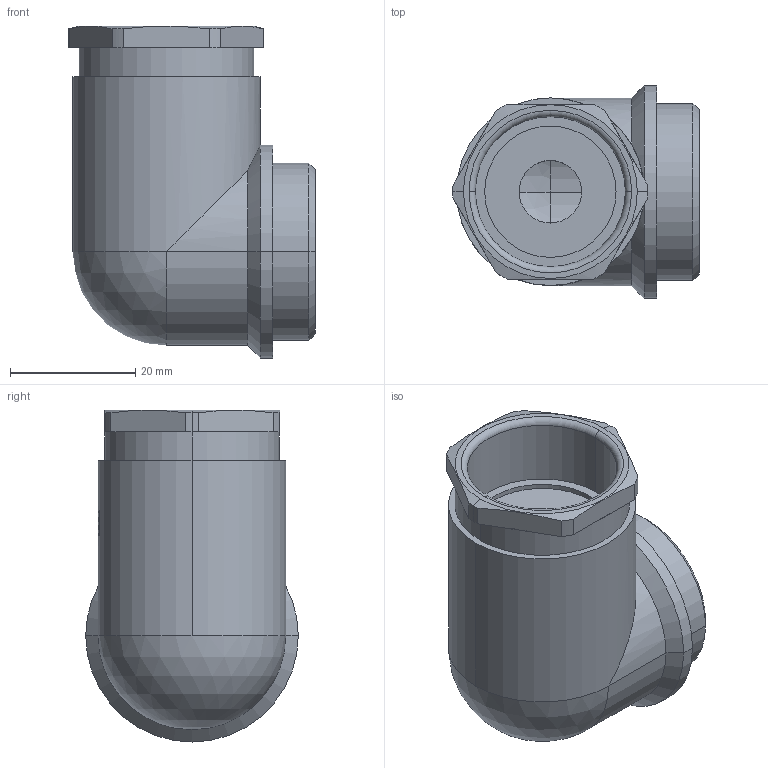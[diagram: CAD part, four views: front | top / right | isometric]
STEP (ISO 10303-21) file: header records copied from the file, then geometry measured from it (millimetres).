
FILE_DESCRIPTION (( 'STEP AP203' ), '1' );
FILE_NAME ('21.121.STEP', '2006-11-06T12:08:31', ( ' ' ), ( '' ), 'SwSTEP 2.0', 'SolidWorks 2005278', '' );
FILE_SCHEMA (( 'CONFIG_CONTROL_DESIGN' ));
Length unit declared in the file: millimetre
Products named in the file (1): 21.121
Bounding box: 39.4 x 34 x 53.1 mm (x, y, z)
Volume: 17642.8 mm3; surface area: 10971.5 mm2
Topology: 1 solids, 1 shells, 94 faces, 234 edges, 149 vertices
Faces by surface type: plane 49, cylinder 33, cone 7, sphere 3, torus 2
Entity records: 2940 total; most frequent: CARTESIAN_POINT 619, DIRECTION 483, ORIENTED_EDGE 460, EDGE_CURVE 230, AXIS2_PLACEMENT_3D 190, VERTEX_POINT 148, EDGE_LOOP 106, LINE 103
